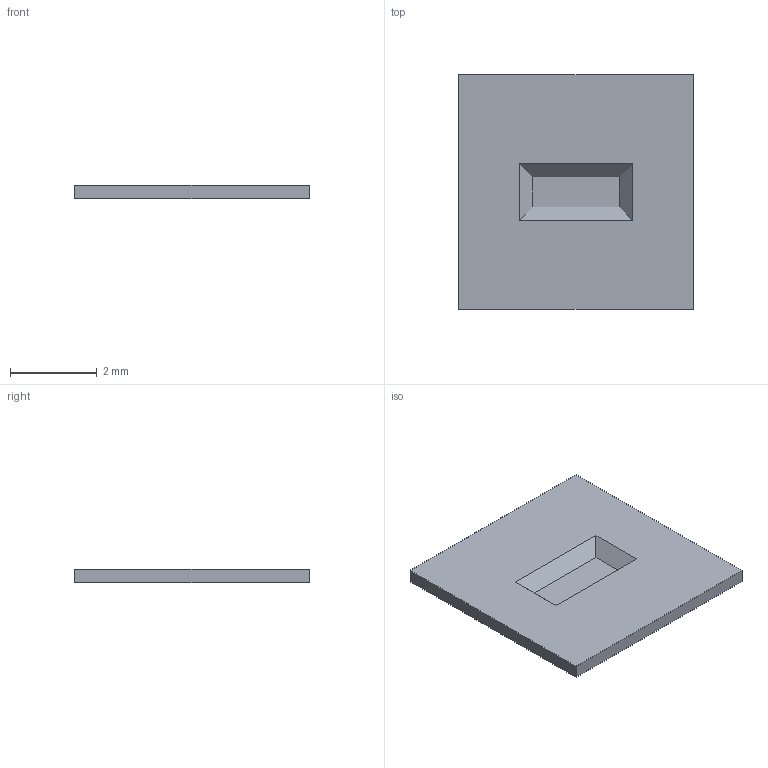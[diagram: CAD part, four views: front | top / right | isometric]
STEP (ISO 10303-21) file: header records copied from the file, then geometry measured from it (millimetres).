
FILE_DESCRIPTION(('HOOPS Exchange Step'),'2;1');
FILE_NAME('/Users/xavierjoseph/Library/Containers/com.shapr3d.shapr/Data/tmp/export/temp_export','2025-08-18T11:40:03-04:00',('xavierjoseph'),('Shapr3D Limited'),'HOOPS Exchange 2024.8','Shapr3D','Authorized');
FILE_SCHEMA( ('AP242_MANAGED_MODEL_BASED_3D_ENGINEERING_MIM_LF {1 0 10303 442 1 1 4}') );
Length unit declared in the file: millimetre
Products named in the file (4): 1-Slot Membrane:1; Pore Layer:1; 1 Slot Membrane v3.step; root
Assembly tree (3 placements, depth 3):
  root
    1 Slot Membrane v3.step
      1-Slot Membrane:1
      Pore Layer:1
Bounding box: 5.4 x 5.4 x 0.31 mm (x, y, z)
Volume: 8.3 mm3; surface area: 121.4 mm2
Topology: 2 solids, 2 shells, 16 faces, 36 edges, 24 vertices
Faces by surface type: plane 16
Entity records: 563 total; most frequent: CARTESIAN_POINT 84, DIRECTION 84, ORIENTED_EDGE 72, VECTOR 36, LINE 36, EDGE_CURVE 36, AXIS2_PLACEMENT_3D 24, VERTEX_POINT 24
